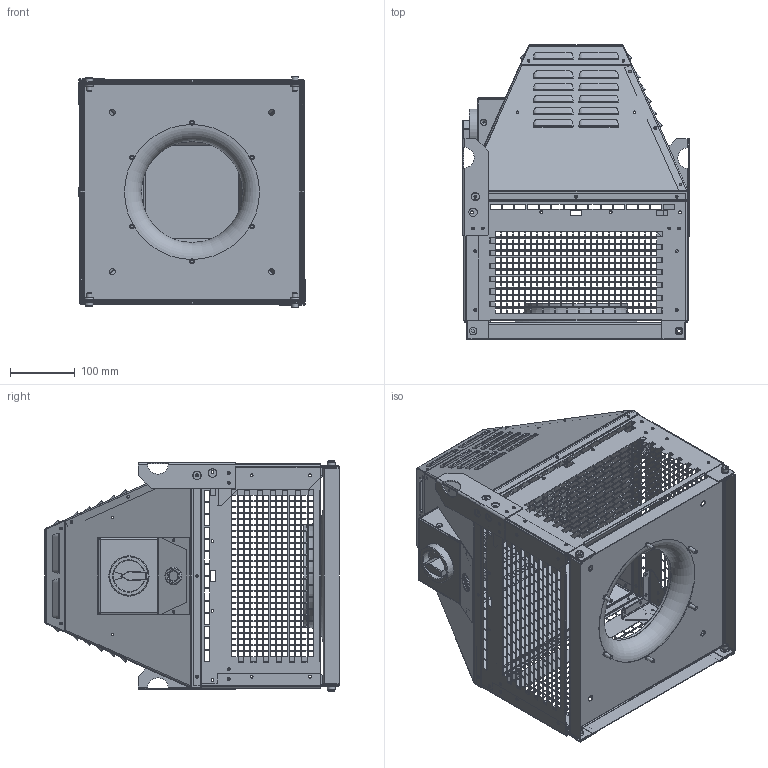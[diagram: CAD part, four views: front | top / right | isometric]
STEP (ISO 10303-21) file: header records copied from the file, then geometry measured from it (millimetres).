
FILE_DESCRIPTION (( 'STEP AP203' ), '1' );
FILE_NAME ('150559-00_DHN250D2F430_step.step', '2019-05-10T11:14:43', ( '' ), ( '' ), 'SwSTEP 2.0', 'SolidWorks 2017', '' );
FILE_SCHEMA (( 'CONFIG_CONTROL_DESIGN' ));
Length unit declared in the file: millimetre
Products named in the file (1): 150559-00_DHN250D2F430_step
Bounding box: 349.3 x 452.81 x 356.3 mm (x, y, z)
Surface area: 1495218.8 mm2 (no closed solid volume)
Topology: 0 solids, 56 shells, 3377 faces, 12951 edges, 8606 vertices
Faces by surface type: plane 2737, cylinder 376, bspline 224, torus 26, cone 10, sphere 4
Full cylindrical faces by diameter (mm): 3.2 x14, 4.2 x90, 4.5 x66, 5.4 x3, 6 x10, 7.4 x6, 8 x1, 9 x8, 10 x2, 12 x4, 13 x8, 16 x2, 20 x2, 26 x1, 27.5 x1, 61 x1, 156 x1, 158 x1
Entity records: 167903 total; most frequent: CARTESIAN_POINT 61109, ORIENTED_EDGE 20663, DIRECTION 18912, EDGE_CURVE 12613, LINE 10992, VECTOR 10992, VERTEX_POINT 8604, EDGE_LOOP 5774
